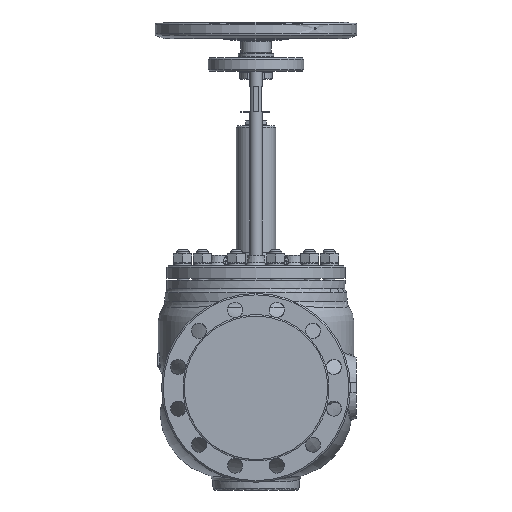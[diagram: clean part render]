
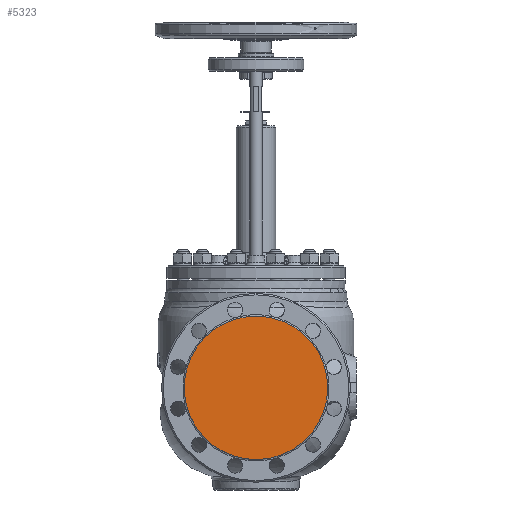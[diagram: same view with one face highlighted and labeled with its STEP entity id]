
A CAD part, front view. The second image highlights one B-rep face of the part: STEP entity #5323.
In plain terms, the highlighted planar face has unit normal (0, -1, 0).
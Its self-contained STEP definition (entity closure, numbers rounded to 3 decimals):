
#3281=PLANE('',#20680);
#4183=FACE_OUTER_BOUND('',#7775,.T.);
#5323=ADVANCED_FACE('',(#4183),#3281,.F.);
#7775=EDGE_LOOP('',(#12880));
#12880=ORIENTED_EDGE('',*,*,#17526,.T.);
#14915=VERTEX_POINT('',#39045);
#17526=EDGE_CURVE('',#14915,#14915,#18637,.T.);
#18637=CIRCLE('',#20592,142.5);
#20592=AXIS2_PLACEMENT_3D('',#39044,#25054,#25055);
#20680=AXIS2_PLACEMENT_3D('',#39166,#25230,#25231);
#25054=DIRECTION('',(0.,-1.,0.));
#25055=DIRECTION('',(1.,0.,0.));
#25230=DIRECTION('',(0.,1.,0.));
#25231=DIRECTION('',(-1.,0.,0.));
#39044=CARTESIAN_POINT('',(0.,-300.,0.));
#39045=CARTESIAN_POINT('',(142.5,-300.,0.));
#39166=CARTESIAN_POINT('',(0.,-300.,142.5));
